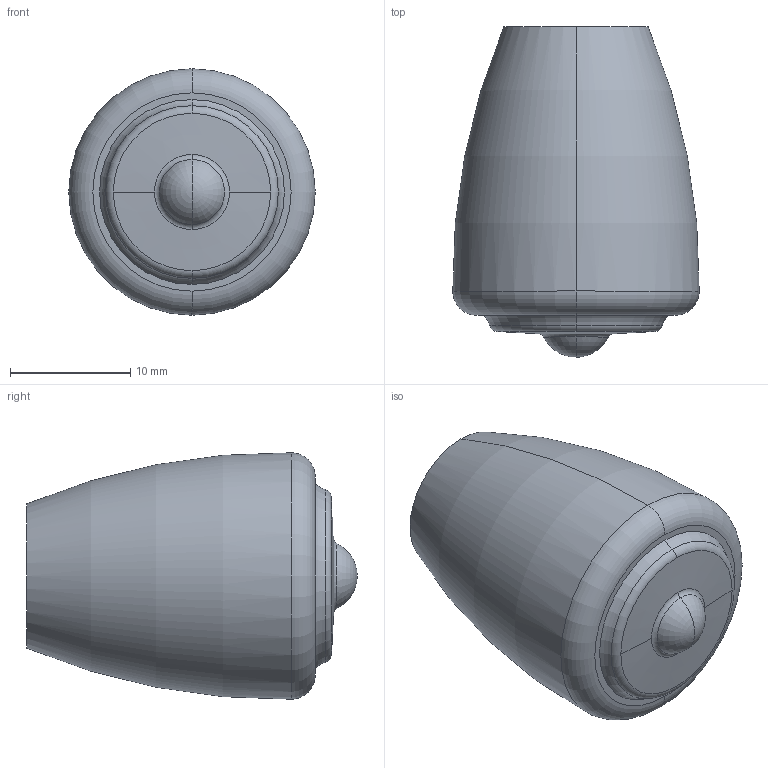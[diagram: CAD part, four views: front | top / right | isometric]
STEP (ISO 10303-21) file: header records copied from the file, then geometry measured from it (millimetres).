
FILE_DESCRIPTION( ( '' ), '1' );
FILE_NAME( 'C:/Documents and Settings/Nikhil/Desktop/Nik/Done/9113494.stp', '2013-10-23T12:30:52', ( '' ), ( '' ), ' ', ' ', ' ' );
FILE_SCHEMA( ( 'automotive_design' ) );
Length unit declared in the file: millimetre
Products named in the file (1): 1
Bounding box: 20.5 x 27.5 x 20.5 mm (x, y, z)
Volume: 6398.9 mm3; surface area: 1893.6 mm2
Topology: 1 solids, 1 shells, 19 faces, 47 edges, 30 vertices
Faces by surface type: torus 12, plane 3, cone 2, cylinder 2
Entity records: 1131 total; most frequent: DIRECTION 126, STYLED_ITEM 95, PRESENTATION_STYLE_ASSIGNMENT 95, CARTESIAN_POINT 95, COLOUR_RGB 95, ORIENTED_EDGE 90, AXIS2_PLACEMENT_3D 61, EDGE_CURVE 45
